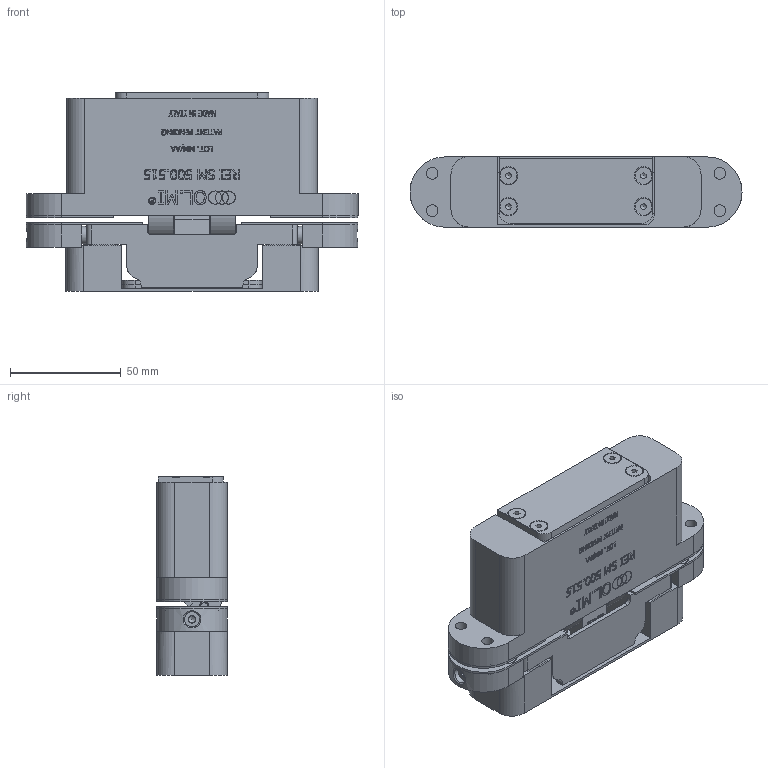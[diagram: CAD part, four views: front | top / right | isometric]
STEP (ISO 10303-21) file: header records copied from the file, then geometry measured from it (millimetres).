
FILE_DESCRIPTION((''),'2;1');
FILE_NAME('C:\Documents and Settings\pc02.OLMI.000\Desktop\500.515-01.stp','2016-09-22T11:29:29',('pc02'),(''),'Autodesk Inventor 2011','Autodesk Inventor 2011','');
FILE_SCHEMA(('AUTOMOTIVE_DESIGN { 1 0 10303 214 1 1 1 1 }'));
Length unit declared in the file: millimetre
Products named in the file (13): 500.515-01; 3D.STD.002540.00; 3D.STD.002236.00; 3D.STD.002542.00; 3D.STD.002543.00; 3D.STD.002544.00; 3D.STD.002553.00; 3D.STD.002546.00; 3D.STD.002421.00; 3D.STD.001977.00; 700.736-00; 700.737-00; 3D.STD.002260.00
Assembly tree (25 placements, depth 2):
  500.515-01
    3D.STD.002540.00
    3D.STD.002236.00  x2
    3D.STD.002542.00
    3D.STD.002543.00
    3D.STD.002544.00
    3D.STD.002553.00
    3D.STD.002546.00
    3D.STD.002421.00  x4
    3D.STD.001977.00
    700.736-00  x2
    700.737-00  x2
    3D.STD.002260.00  x8
Bounding box: 150 x 31.82 x 89.76 mm (x, y, z)
Volume: 244701.8 mm3; surface area: 108331.9 mm2
Topology: 25 solids, 26 shells, 2482 faces, 6499 edges, 4191 vertices
Faces by surface type: plane 1656, cylinder 340, bspline 239, cone 203, torus 44
Full cylindrical faces by diameter (mm): 0.9 x2, 1 x4, 1.1 x2, 2.5 x8, 2.693 x8, 3 x8, 3.4 x4, 3.6 x8, 3.98 x3, 4 x13, 4.02 x3, 4.16 x2, 4.161 x11, 4.2 x4, 4.5 x2, 5 x4, 5.2 x8, 5.3 x8, 5.5 x8, 6.8 x4, 7.2 x2, 7.64 x4, 8 x2, 8.2 x4, 8.4 x2, 9.5 x11, 9.64 x2, 10 x2, 10.3 x8, 15 x2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
Entity records: 60841 total; most frequent: CARTESIAN_POINT 13768, ORIENTED_EDGE 9858, DIRECTION 8737, EDGE_CURVE 4929, VECTOR 3669, LINE 3669, VERTEX_POINT 3276, AXIS2_PLACEMENT_3D 2534
